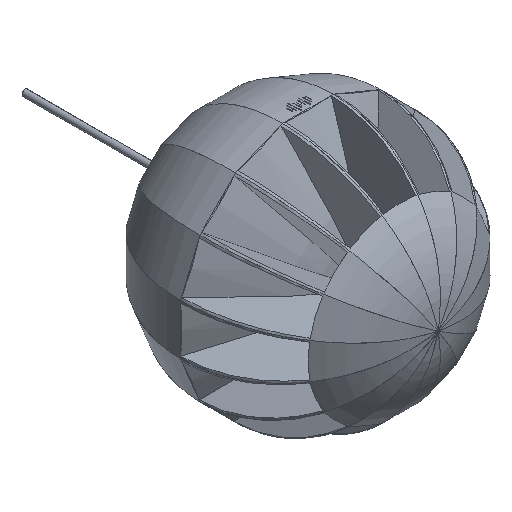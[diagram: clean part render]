
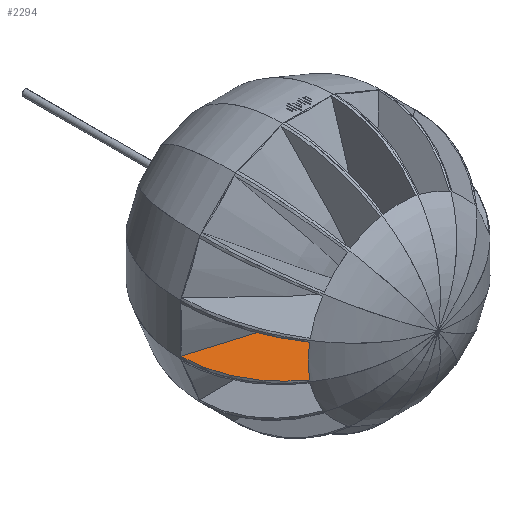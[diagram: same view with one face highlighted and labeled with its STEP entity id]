
A CAD part, isometric view. The second image highlights one B-rep face of the part: STEP entity #2294.
In plain terms, the highlighted planar face has unit normal (-0.178, 0, 0.984).
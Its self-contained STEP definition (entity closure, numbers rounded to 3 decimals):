
#100 = CARTESIAN_POINT ( 'NONE',  ( -17.737, -48.784, -3.207 ) ) ;
#261 = CARTESIAN_POINT ( 'NONE',  ( -120.857, -33.02, -21.855 ) ) ;
#410 = CARTESIAN_POINT ( 'NONE',  ( -125.05, -0.243, -22.613 ) ) ;
#472 = EDGE_CURVE ( 'NONE', #24446, #6068, #22474, .T. ) ;
#555 = CARTESIAN_POINT ( 'NONE',  ( -99.97, -76.595, -18.078 ) ) ;
#839 = CARTESIAN_POINT ( 'NONE',  ( -119.378, -37.999, -21.587 ) ) ;
#1378 = DIRECTION ( 'NONE',  ( 0.178, 0., -0.984 ) ) ;
#2294 = ADVANCED_FACE ( 'NONE', ( #3005 ), #15231, .F. ) ;
#2749 = CARTESIAN_POINT ( 'NONE',  ( -118.428, -40.975, -21.415 ) ) ;
#2892 = VERTEX_POINT ( 'NONE', #25423 ) ;
#3005 = FACE_OUTER_BOUND ( 'NONE', #5624, .T. ) ;
#4143 = DIRECTION ( 'NONE',  ( -0.984, 0., -0.178 ) ) ;
#4290 = CARTESIAN_POINT ( 'NONE',  ( 0., 0., 0. ) ) ;
#4940 = CARTESIAN_POINT ( 'NONE',  ( -106.339, -67.203, -19.229 ) ) ;
#5164 = EDGE_CURVE ( 'NONE', #14028, #24446, #16574, .T. ) ;
#5624 = EDGE_LOOP ( 'NONE', ( #27916, #10310, #6456, #27738 ) ) ;
#6068 = VERTEX_POINT ( 'NONE', #25292 ) ;
#6388 = EDGE_CURVE ( 'NONE', #2892, #6068, #28576, .T. ) ;
#6456 = ORIENTED_EDGE ( 'NONE', *, *, #6388, .T. ) ;
#7119 = CARTESIAN_POINT ( 'NONE',  ( -117.057, -44.921, -21.167 ) ) ;
#7269 = CARTESIAN_POINT ( 'NONE',  ( -91.451, -87.061, -16.537 ) ) ;
#7411 = CARTESIAN_POINT ( 'NONE',  ( -94.204, -83.955, -17.035 ) ) ;
#7545 = CARTESIAN_POINT ( 'NONE',  ( -108.42, -63.656, -19.606 ) ) ;
#7964 = VECTOR ( 'NONE', #10690, 1000. ) ;
#9131 = CARTESIAN_POINT ( 'NONE',  ( -99.353, -77.427, -17.966 ) ) ;
#9564 = CARTESIAN_POINT ( 'NONE',  ( -97.454, -79.898, -17.623 ) ) ;
#9692 = CARTESIAN_POINT ( 'NONE',  ( -101.791, -74.08, -18.407 ) ) ;
#9769 = CARTESIAN_POINT ( 'NONE',  ( -17.737, -48.784, -3.207 ) ) ;
#10310 = ORIENTED_EDGE ( 'NONE', *, *, #19065, .T. ) ;
#10690 = DIRECTION ( 'NONE',  ( 0., -1., 0. ) ) ;
#10992 = CARTESIAN_POINT ( 'NONE',  ( -17.737, -47.218, -3.207 ) ) ;
#11154 = CARTESIAN_POINT ( 'NONE',  ( -125.05, -0.243, -22.613 ) ) ;
#11613 = CARTESIAN_POINT ( 'NONE',  ( -121.841, -29.002, -22.032 ) ) ;
#11745 = CARTESIAN_POINT ( 'NONE',  ( -50.149, -44.134, -9.068 ) ) ;
#12040 = CARTESIAN_POINT ( 'NONE',  ( -124.828, -8.58, -22.572 ) ) ;
#13612 = CARTESIAN_POINT ( 'NONE',  ( -88.547, -90.029, -16.012 ) ) ;
#13949 = CARTESIAN_POINT ( 'NONE',  ( -88.547, -90.029, -16.012 ) ) ;
#14028 = VERTEX_POINT ( 'NONE', #20557 ) ;
#15231 = PLANE ( 'NONE',  #21318 ) ;
#16000 = CARTESIAN_POINT ( 'NONE',  ( -46.666, -58.814, -8.439 ) ) ;
#16468 = CARTESIAN_POINT ( 'NONE',  ( -124.018, -16.815, -22.426 ) ) ;
#16574 =( BOUNDED_CURVE ( )  B_SPLINE_CURVE ( 2, ( #11154, #11745, #100 ),
 .UNSPECIFIED., .F., .T. ) 
 B_SPLINE_CURVE_WITH_KNOTS ( ( 3, 3 ),
 ( 0.002, 0.834 ),
 .UNSPECIFIED. ) 
 CURVE ( )  GEOMETRIC_REPRESENTATION_ITEM ( )  RATIONAL_B_SPLINE_CURVE ( ( 1.002, 1.416, 1.139 ) ) 
 REPRESENTATION_ITEM ( '' )  );
#18101 = CARTESIAN_POINT ( 'NONE',  ( -98.095, -79.078, -17.738 ) ) ;
#18247 = CARTESIAN_POINT ( 'NONE',  ( -125.04, -4.429, -22.611 ) ) ;
#18354 = CARTESIAN_POINT ( 'NONE',  ( -17.737, -57.364, -3.207 ) ) ;
#19065 = EDGE_CURVE ( 'NONE', #14028, #2892, #24698, .T. ) ;
#20557 = CARTESIAN_POINT ( 'NONE',  ( -125.05, -0.243, -22.613 ) ) ;
#20600 = CARTESIAN_POINT ( 'NONE',  ( -116.321, -46.866, -21.034 ) ) ;
#21318 = AXIS2_PLACEMENT_3D ( 'NONE', #4290, #1378, #4143 ) ;
#22474 = LINE ( 'NONE', #10992, #7964 ) ;
#22803 = CARTESIAN_POINT ( 'NONE',  ( -123.421, -20.9, -22.318 ) ) ;
#22944 = CARTESIAN_POINT ( 'NONE',  ( -113.978, -52.627, -20.611 ) ) ;
#24446 = VERTEX_POINT ( 'NONE', #9769 ) ;
#24698 = B_SPLINE_CURVE_WITH_KNOTS ( 'NONE', 3,
 ( #410, #18247, #12040, #16468, #22803, #11613, #261, #839, #27508, #2749, #24859, #7119, #20600, #22944, #25433, #7545, #4940, #27071, #9692, #555, #9131, #18101, #9564, #7411, #7269, #13949 ),
 .UNSPECIFIED., .F., .F.,
 ( 4, 2, 2, 2, 2, 2, 2, 2, 2, 2, 2, 2, 4 ),
 ( 0., 0.013, 0.025, 0.037, 0.04, 0.044, 0.05, 0.062, 0.075, 0.081, 0.084, 0.087, 0.099 ),
 .UNSPECIFIED. ) ;
#24859 = CARTESIAN_POINT ( 'NONE',  ( -118.094, -41.966, -21.355 ) ) ;
#25292 = CARTESIAN_POINT ( 'NONE',  ( -17.737, -57.364, -3.207 ) ) ;
#25423 = CARTESIAN_POINT ( 'NONE',  ( -88.547, -90.029, -16.012 ) ) ;
#25433 = CARTESIAN_POINT ( 'NONE',  ( -112.24, -56.368, -20.296 ) ) ;
#27071 = CARTESIAN_POINT ( 'NONE',  ( -102.96, -72.379, -18.618 ) ) ;
#27508 = CARTESIAN_POINT ( 'NONE',  ( -119.07, -38.992, -21.531 ) ) ;
#27738 = ORIENTED_EDGE ( 'NONE', *, *, #472, .F. ) ;
#27916 = ORIENTED_EDGE ( 'NONE', *, *, #5164, .F. ) ;
#28576 =( BOUNDED_CURVE ( )  B_SPLINE_CURVE ( 2, ( #13612, #16000, #18354 ),
 .UNSPECIFIED., .F., .T. ) 
 B_SPLINE_CURVE_WITH_KNOTS ( ( 3, 3 ),
 ( 0.001, 0.882 ),
 .UNSPECIFIED. ) 
 CURVE ( )  GEOMETRIC_REPRESENTATION_ITEM ( )  RATIONAL_B_SPLINE_CURVE ( ( 1.002, 2.159, 1.274 ) ) 
 REPRESENTATION_ITEM ( '' )  );
